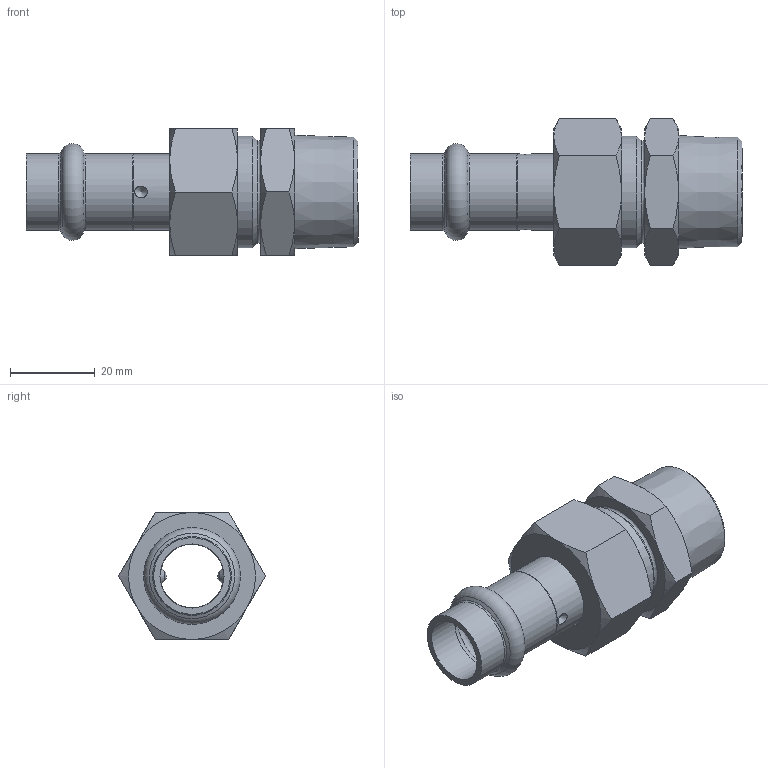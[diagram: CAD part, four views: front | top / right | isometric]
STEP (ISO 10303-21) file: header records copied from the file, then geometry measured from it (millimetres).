
FILE_DESCRIPTION((''),'2;1');
FILE_NAME('G:\Nirosan-Schmiedefeld\Technics\CAD\Bauteile VA\015\69333G1534(4).stp','2011-09-20T11:48:14',('herberg'),(''),'Autodesk Inventor 2009','Autodesk Inventor 2009','');
FILE_SCHEMA(('AUTOMOTIVE_DESIGN { 1 0 10303 214 1 1 1 1 }'));
Length unit declared in the file: millimetre
Products named in the file (7): 69333G1534(4); 69359mms1534(1); HM_692431815(0); R1834(0); MS_SM1534(2); FD_2417_EPDM(0); 69376G3434(1)
Assembly tree (6 placements, depth 3):
  69333G1534(4)
    69359mms1534(1)
      HM_692431815(0)
      R1834(0)
      MS_SM1534(2)
      FD_2417_EPDM(0)
    69376G3434(1)
Bounding box: 78.5 x 34.64 x 30 mm (x, y, z)
Volume: 21106.4 mm3; surface area: 15840.9 mm2
Topology: 5 solids, 5 shells, 89 faces, 189 edges, 113 vertices
Faces by surface type: cone 38, plane 25, cylinder 12, bspline 10, sphere 2, torus 2
Full cylindrical faces by diameter (mm): 15 x2, 15.15 x2, 17 x1, 18 x2, 18.15 x2, 23 x1, 24 x1, 26.441 x1
Entity records: 2783 total; most frequent: CARTESIAN_POINT 1013, DIRECTION 340, ORIENTED_EDGE 280, AXIS2_PLACEMENT_3D 164, EDGE_CURVE 140, EDGE_LOOP 140, VERTEX_POINT 102, FACE_OUTER_BOUND 89
